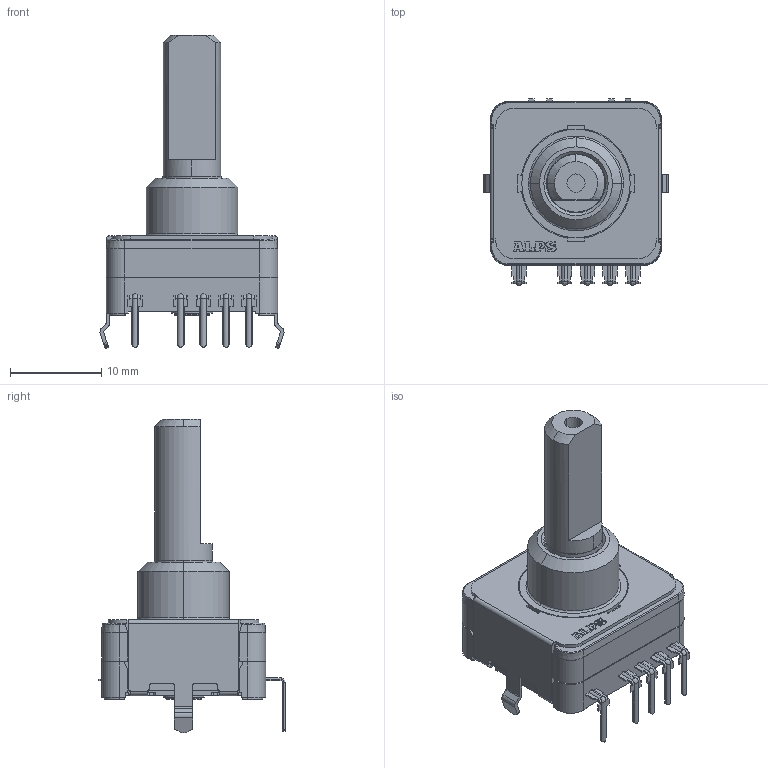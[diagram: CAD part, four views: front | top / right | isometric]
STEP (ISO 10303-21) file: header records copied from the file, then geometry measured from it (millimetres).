
FILE_DESCRIPTION (( 'STEP AP214' ), '1' );
FILE_NAME ('EC18AGA20402.STEP', '2011-01-05T08:08:24', ( ' ' ), ( '' ), 'SwSTEP 2.0', 'SolidWorks 2007', '' );
FILE_SCHEMA (( 'AUTOMOTIVE_DESIGN' ));
Length unit declared in the file: inch
Products named in the file (1): EC18AGA20402
Bounding box: 20.2 x 20.45 x 34.37 mm (x, y, z)
Volume: 3605.5 mm3; surface area: 2206.4 mm2
Topology: 1 solids, 1 shells, 726 faces, 1983 edges, 1290 vertices
Faces by surface type: plane 444, cylinder 243, bspline 23, cone 16
Entity records: 33385 total; most frequent: CARTESIAN_POINT 5455, ORIENTED_EDGE 3966, DIRECTION 3743, EDGE_CURVE 1983, LINE 1419, VECTOR 1419, VERTEX_POINT 1290, AXIS2_PLACEMENT_3D 1162
